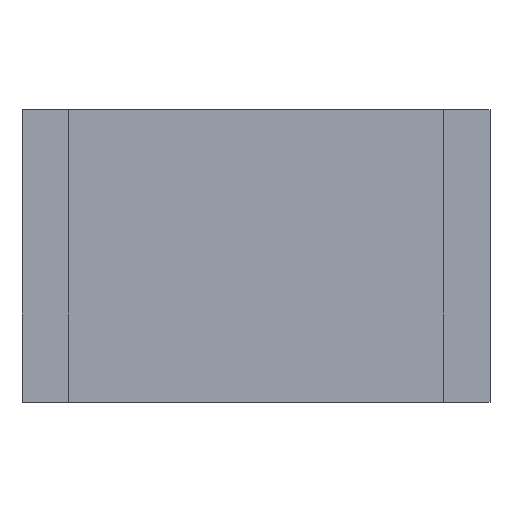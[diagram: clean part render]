
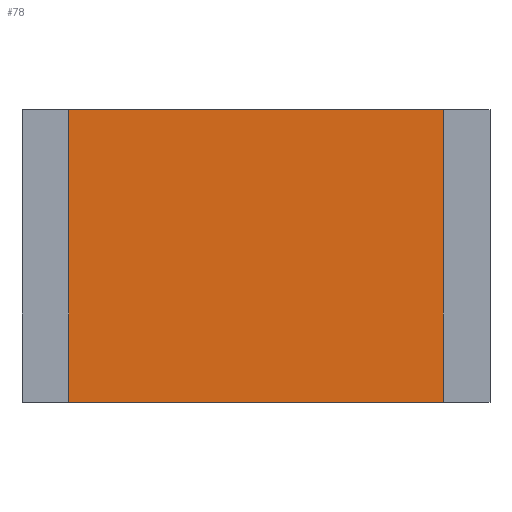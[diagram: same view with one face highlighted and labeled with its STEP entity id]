
A CAD part, top view. The second image highlights one B-rep face of the part: STEP entity #78.
In plain terms, the highlighted planar face has unit normal (0, 0, 1).
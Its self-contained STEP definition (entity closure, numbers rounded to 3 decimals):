
#78=ADVANCED_FACE('',(#312),#314,.T.);
#312=FACE_BOUND('',#313,.T.);
#313=EDGE_LOOP('',(#494,#495,#496,#497));
#314=PLANE('',#315);
#315=AXIS2_PLACEMENT_3D('',#316,#317,#318);
#316=CARTESIAN_POINT('',(-0.95,-0.625,0.43));
#317=DIRECTION('',(0.,0.,1.));
#318=DIRECTION('',(1.,0.,0.));
#494=ORIENTED_EDGE('',*,*,#614,.T.);
#495=ORIENTED_EDGE('',*,*,#615,.T.);
#496=ORIENTED_EDGE('',*,*,#616,.F.);
#497=ORIENTED_EDGE('',*,*,#617,.F.);
#614=EDGE_CURVE('',#674,#675,#676,.T.);
#615=EDGE_CURVE('',#675,#677,#678,.T.);
#616=EDGE_CURVE('',#679,#677,#680,.T.);
#617=EDGE_CURVE('',#674,#679,#681,.T.);
#674=VERTEX_POINT('',#774);
#675=VERTEX_POINT('',#775);
#676=LINE('',#776,#777);
#677=VERTEX_POINT('',#779);
#678=LINE('',#780,#781);
#679=VERTEX_POINT('',#783);
#680=LINE('',#784,#785);
#681=LINE('',#787,#788);
#774=CARTESIAN_POINT('',(-0.95,-0.625,0.43));
#775=CARTESIAN_POINT('',(0.95,-0.625,0.43));
#776=CARTESIAN_POINT('',(-0.95,-0.625,0.43));
#777=VECTOR('',#778,1.);
#778=DIRECTION('',(1.,0.,0.));
#779=CARTESIAN_POINT('',(0.95,0.625,0.43));
#780=CARTESIAN_POINT('',(0.95,-0.625,0.43));
#781=VECTOR('',#782,1.);
#782=DIRECTION('',(0.,1.,0.));
#783=CARTESIAN_POINT('',(-0.95,0.625,0.43));
#784=CARTESIAN_POINT('',(-0.95,0.625,0.43));
#785=VECTOR('',#786,1.);
#786=DIRECTION('',(1.,0.,0.));
#787=CARTESIAN_POINT('',(-0.95,-0.625,0.43));
#788=VECTOR('',#789,1.);
#789=DIRECTION('',(0.,1.,0.));
